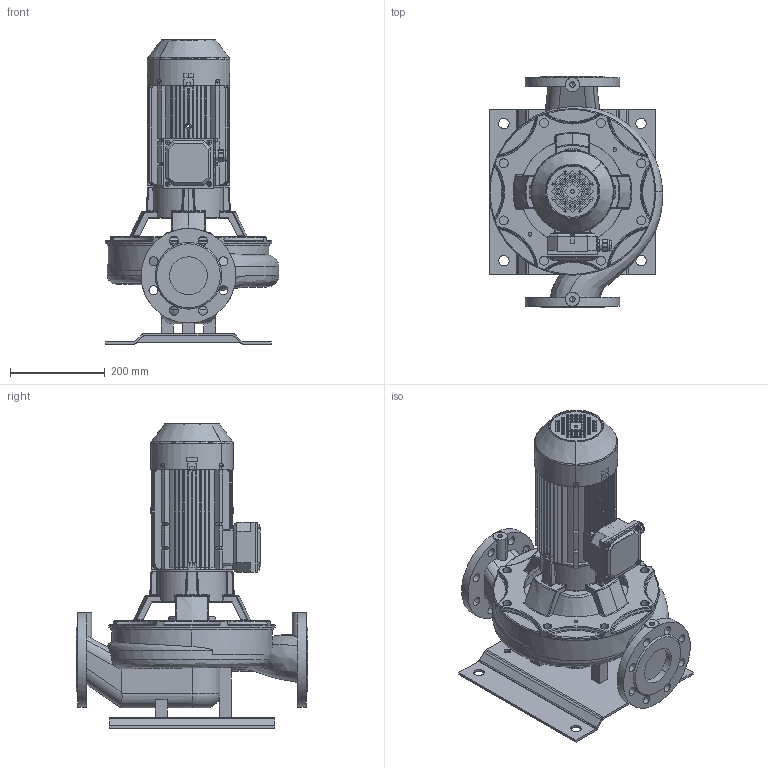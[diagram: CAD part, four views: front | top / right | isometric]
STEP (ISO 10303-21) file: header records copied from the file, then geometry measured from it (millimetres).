
FILE_DESCRIPTION(('STEP AP214'),'1');
FILE_NAME('export.stp','2018-05-29T07:41:29',(' '),(' '),'Spatial InterOp 3D',' ',' ');
FILE_SCHEMA(('AUTOMOTIVE_DESIGN { 1 0 10303 214 1 1 1 1 }'));
Length unit declared in the file: millimetre
Products named in the file (24): W_L80S4150_KP-90; V_TLL50S80S; V_PPL80S; P100496; P100495; P100342; 160034; 160011; V_MKP902_F29; 160141; 160137; 160138; 160139; 160140; Koura_Ale_M5; Plug_Blind_M20; Sealing_Plug_M20; DIN_7985-M5X8; DIN_7985-M5X12; 480037; 480036___; 480039; 480038___; 160135
Assembly tree (27 placements, depth 4):
  W_L80S4150_KP-90
    V_TLL50S80S
    V_PPL80S
    P100496
      P100495  x2
      P100342
    V_MKP902_F29
      160034
        160011
      160141
        160137
        160138
        160139
        160140
        Koura_Ale_M5
        Plug_Blind_M20
        Sealing_Plug_M20
        DIN_7985-M5X8
        DIN_7985-M5X12  x4
      480037
        480036___
      480039
        480038___
      160135
Bounding box: 367 x 490 x 644 mm (x, y, z)
Volume: 13509751.6 mm3; surface area: 2161280.6 mm2
Topology: 21 solids, 21 shells, 2499 faces, 6629 edges, 4183 vertices
Faces by surface type: plane 1031, cylinder 757, torus 266, bspline 240, cone 173, sphere 32
Entity records: 95156 total; most frequent: CARTESIAN_POINT 32368, ORIENTED_EDGE 12842, DIRECTION 12029, EDGE_CURVE 6421, AXIS2_PLACEMENT_3D 4560, VERTEX_POINT 4079, LINE 2909, VECTOR 2909
